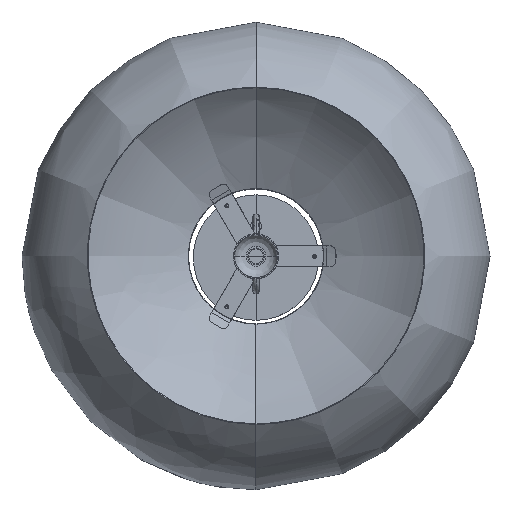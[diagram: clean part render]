
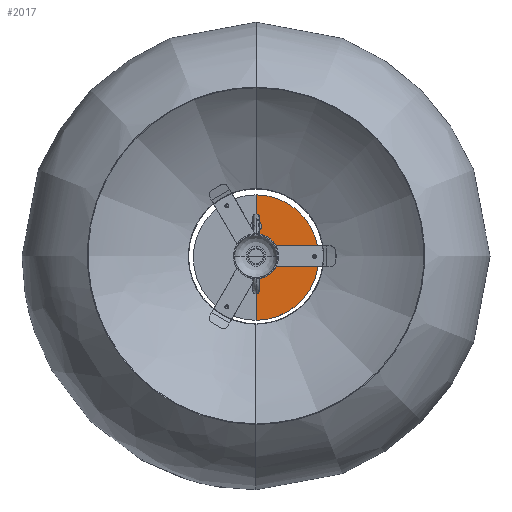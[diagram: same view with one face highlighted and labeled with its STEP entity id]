
A CAD part, top view. The second image highlights one B-rep face of the part: STEP entity #2017.
In plain terms, the highlighted planar face has unit normal (0, 0, 1).
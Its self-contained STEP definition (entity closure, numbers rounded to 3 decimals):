
#127=PLANE('',#2177);
#218=FACE_OUTER_BOUND('',#348,.T.);
#348=EDGE_LOOP('',(#1516,#1517,#1518,#1519,#1520,#1521,#1522));
#473=LINE('',#20612,#636);
#474=LINE('',#20613,#637);
#475=LINE('',#20614,#638);
#636=VECTOR('',#2513,304.8);
#637=VECTOR('',#2514,304.8);
#638=VECTOR('',#2515,304.8);
#785=CIRCLE('',#2162,5.125);
#792=CIRCLE('',#2171,5.125);
#793=CIRCLE('',#2173,5.125);
#797=CIRCLE('',#2178,60.);
#909=VERTEX_POINT('',#20577);
#911=VERTEX_POINT('',#20580);
#914=VERTEX_POINT('',#20590);
#918=VERTEX_POINT('',#20598);
#919=VERTEX_POINT('',#20602);
#921=VERTEX_POINT('',#20609);
#922=VERTEX_POINT('',#20610);
#1124=EDGE_CURVE('',#911,#909,#785,.T.);
#1134=EDGE_CURVE('',#914,#918,#792,.T.);
#1135=EDGE_CURVE('',#919,#914,#793,.T.);
#1139=EDGE_CURVE('',#921,#922,#797,.T.);
#1140=EDGE_CURVE('',#919,#921,#473,.T.);
#1141=EDGE_CURVE('',#911,#918,#474,.T.);
#1142=EDGE_CURVE('',#922,#909,#475,.T.);
#1516=ORIENTED_EDGE('',*,*,#1139,.F.);
#1517=ORIENTED_EDGE('',*,*,#1140,.F.);
#1518=ORIENTED_EDGE('',*,*,#1135,.T.);
#1519=ORIENTED_EDGE('',*,*,#1134,.T.);
#1520=ORIENTED_EDGE('',*,*,#1141,.F.);
#1521=ORIENTED_EDGE('',*,*,#1124,.T.);
#1522=ORIENTED_EDGE('',*,*,#1142,.F.);
#2017=ADVANCED_FACE('',(#218),#127,.F.);
#2162=AXIS2_PLACEMENT_3D('',#20581,#2476,#2477);
#2171=AXIS2_PLACEMENT_3D('',#20600,#2497,#2498);
#2173=AXIS2_PLACEMENT_3D('',#20603,#2501,#2502);
#2177=AXIS2_PLACEMENT_3D('',#20608,#2509,#2510);
#2178=AXIS2_PLACEMENT_3D('',#20611,#2511,#2512);
#2476=DIRECTION('center_axis',(0.,0.,-1.));
#2477=DIRECTION('ref_axis',(0.,-1.,0.));
#2497=DIRECTION('center_axis',(0.,0.,-1.));
#2498=DIRECTION('ref_axis',(-1.,0.,0.));
#2501=DIRECTION('center_axis',(0.,0.,-1.));
#2502=DIRECTION('ref_axis',(-1.,0.,0.));
#2509=DIRECTION('center_axis',(0.,0.,-1.));
#2510=DIRECTION('ref_axis',(0.,-1.,0.));
#2511=DIRECTION('center_axis',(0.,0.,-1.));
#2512=DIRECTION('ref_axis',(0.,-1.,0.));
#2513=DIRECTION('',(0.,1.,0.));
#2514=DIRECTION('',(0.,1.,0.));
#2515=DIRECTION('',(0.,1.,0.));
#20577=CARTESIAN_POINT('',(0.,-5.125,26.));
#20580=CARTESIAN_POINT('',(0.,5.125,26.));
#20581=CARTESIAN_POINT('Origin',(0.,0.,
26.));
#20590=CARTESIAN_POINT('',(5.125,30.,26.));
#20598=CARTESIAN_POINT('',(0.,24.875,26.));
#20600=CARTESIAN_POINT('Origin',(0.,30.,
26.));
#20602=CARTESIAN_POINT('',(0.,35.125,26.));
#20603=CARTESIAN_POINT('Origin',(0.,30.,
26.));
#20608=CARTESIAN_POINT('Origin',(0.,0.,
26.));
#20609=CARTESIAN_POINT('',(0.,60.,26.));
#20610=CARTESIAN_POINT('',(0.,-60.,26.));
#20611=CARTESIAN_POINT('Origin',(0.,0.,
26.));
#20612=CARTESIAN_POINT('',(0.,35.125,26.));
#20613=CARTESIAN_POINT('',(0.,5.125,26.));
#20614=CARTESIAN_POINT('',(0.,-60.,26.));
